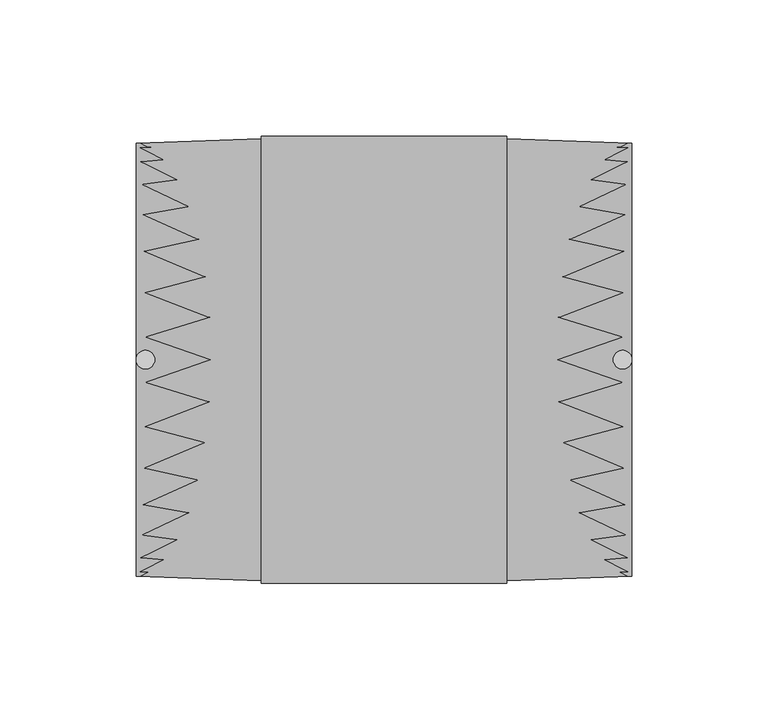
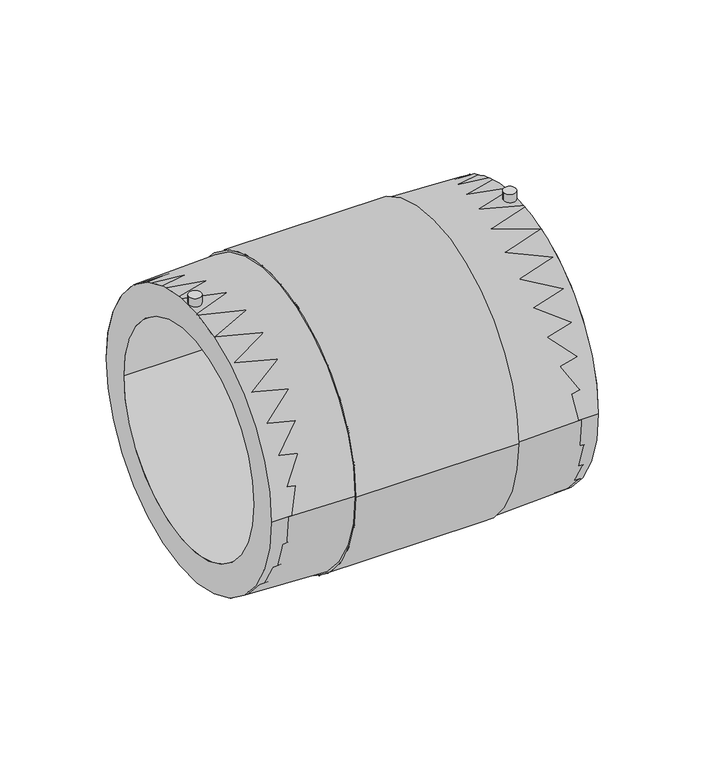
"""IFC4 building model written with IfcOpenShell, lengths in millimetres: pipe fitting geometry, EGB_VASEN_ PPR_Manguito electrosoldable WXRD100 : Manguito electrosoldable WXRD100."""

import ifcopenshell
import ifcopenshell.guid

model = None  # the IFC model being written
_history = None  # IfcOwnerHistory: only IFC2X3 demands one
_inside = {}  # id of a spatial element -> (the spatial element, [elements in it])
_under = {}  # id of a project, library or spatial element -> (it, [spatial elements below it])
_declared = {}  # id of a project -> (the project, [libraries it declares])
_typed = {}  # id of a type object -> (the type object, [elements of that type])
_made_of = {}  # id of a material, layer set ... -> (it, [elements and type objects made of it])


def new_model(schema):
    """Start an empty IFC model of exactly this schema.

    Asked for "IFC4X3", IfcOpenShell would pick the latest addendum, in which some entities
    have other attributes; the version numbers below select the first issue.
    IFC2X3 requires an IfcOwnerHistory on every rooted entity: one is made here for all.
    """
    global model, _history
    if schema == "IFC4X3":
        model = ifcopenshell.file(schema_version=(4, 3, 0, 0))
    else:
        model = ifcopenshell.file(schema=schema)
    _inside.clear()
    _under.clear()
    _declared.clear()
    _typed.clear()
    _made_of.clear()
    _history = None
    if model.schema == "IFC2X3":
        org = make("IfcOrganization", Name="unknown")
        user = make(
            "IfcPersonAndOrganization",
            ThePerson=make("IfcPerson", FamilyName="unknown"),
            TheOrganization=org,
        )
        app = make(
            "IfcApplication",
            ApplicationDeveloper=org,
            Version="unknown",
            ApplicationFullName="unknown",
            ApplicationIdentifier="unknown",
        )
        _history = make(
            "IfcOwnerHistory",
            OwningUser=user,
            OwningApplication=app,
            ChangeAction="ADDED",
            CreationDate=0,
        )
    return model


def make(cls, **values):
    """One entity of the class cls with the attributes given. An attribute that is None is left unset."""
    return model.create_entity(
        cls, **{name: value for name, value in values.items() if value is not None}
    )


def rooted(cls, **values):
    """An entity with a GlobalId (a new one), such as an element, a storey or a relation."""
    return make(cls, GlobalId=ifcopenshell.guid.new(), OwnerHistory=_history, **values)


def si_unit(unit_type, name, prefix=None):
    """IfcSIUnit, for example si_unit("LENGTHUNIT", "METRE", prefix="MILLI")."""
    return make("IfcSIUnit", UnitType=unit_type, Prefix=prefix, Name=name)


def assignment(units):
    """IfcUnitAssignment: the units of a project."""
    return None if units is None else make("IfcUnitAssignment", Units=units)


def point(xyz):
    """IfcCartesianPoint."""
    return None if xyz is None else make("IfcCartesianPoint", Coordinates=xyz)


def direction(xyz):
    """IfcDirection."""
    return None if xyz is None else make("IfcDirection", DirectionRatios=xyz)


def frame(location, z_axis=None, x_axis=None):
    """IfcAxis2Placement3D, a coordinate frame: its origin and axes. An axis left out is left unset."""
    return make(
        "IfcAxis2Placement3D",
        Location=point(location),
        Axis=direction(z_axis),
        RefDirection=direction(x_axis),
    )


def frame_2d(location, x_axis=None):
    """IfcAxis2Placement2D, a coordinate frame in the plane: its origin and x axis."""
    return make(
        "IfcAxis2Placement2D", Location=point(location), RefDirection=direction(x_axis)
    )


def origin():
    """The frame at (0, 0, 0) with its axes left unset."""
    return frame((0.0, 0.0, 0.0))


def origin_2d():
    """The frame at (0, 0) in the plane with its x axis left unset."""
    return frame_2d((0.0, 0.0))


def place(relative_to, where):
    """IfcLocalPlacement: puts the frame where relative to a parent placement (None: the world)."""
    return make(
        "IfcLocalPlacement", PlacementRelTo=relative_to, RelativePlacement=where
    )


def context(
    kind, dimensions, precision=None, world=None, true_north=None, identifier=None
):
    """IfcGeometricRepresentationContext, for example the 3D "Model" context."""
    return make(
        "IfcGeometricRepresentationContext",
        ContextIdentifier=identifier,
        ContextType=kind,
        CoordinateSpaceDimension=dimensions,
        Precision=precision,
        WorldCoordinateSystem=world,
        TrueNorth=true_north,
    )


def project(units=None, contexts=None):
    """IfcProject with its units and contexts."""
    return rooted(
        "IfcProject",
        Name="project",
        RepresentationContexts=contexts,
        UnitsInContext=assignment(units),
    )


def spatial(cls, under=None, at=None, **own):
    """A site, building, storey or space (cls), placed at a placement, below another one or the project."""
    s = rooted(cls, ObjectPlacement=at, **own)
    if under is not None:
        _under.setdefault(under.id(), (under, []))[1].append(s)
    return s


def polyline(points):
    """IfcPolyline through the points."""
    return make("IfcPolyline", Points=[point(p) for p in points])


def circle_curve(where, radius):
    """IfcCircle in the frame where."""
    return make("IfcCircle", Position=where, Radius=radius)


def trimmed(basis, trim1, trim2, sense, master):
    """IfcTrimmedCurve: the piece of a basis curve between two trims."""
    return make(
        "IfcTrimmedCurve",
        BasisCurve=basis,
        Trim1=trim1,
        Trim2=trim2,
        SenseAgreement=sense,
        MasterRepresentation=master,
    )


def segment(curve, same_sense, transition):
    """IfcCompositeCurveSegment."""
    return make(
        "IfcCompositeCurveSegment",
        Transition=transition,
        SameSense=same_sense,
        ParentCurve=curve,
    )


def composite_curve(segments, self_intersect=None):
    """IfcCompositeCurve: segments joined end to end."""
    return make("IfcCompositeCurve", Segments=segments, SelfIntersect=self_intersect)


def outline(outer, holes=None, kind="AREA"):
    """IfcArbitraryClosedProfileDef: a profile drawn as a closed curve; with holes, ...WithVoids."""
    if holes is None:
        return make("IfcArbitraryClosedProfileDef", ProfileType=kind, OuterCurve=outer)
    return make(
        "IfcArbitraryProfileDefWithVoids",
        ProfileType=kind,
        OuterCurve=outer,
        InnerCurves=holes,
    )


def extrude(swept, where, along, depth):
    """IfcExtrudedAreaSolid: the profile swept, set in the frame where, extruded along a direction by depth."""
    return make(
        "IfcExtrudedAreaSolid",
        SweptArea=swept,
        Position=where,
        ExtrudedDirection=direction(along),
        Depth=depth,
    )


def shape(context_of_items, identifier, shape_type, items):
    """IfcShapeRepresentation: the items that make up one representation, for example the "Body"."""
    return make(
        "IfcShapeRepresentation",
        ContextOfItems=context_of_items,
        RepresentationIdentifier=identifier,
        RepresentationType=shape_type,
        Items=items,
    )


def source(mapping_origin, context_of_items, identifier, shape_type, items):
    """IfcRepresentationMap: a shape defined once, which mapped items show again and again."""
    return make(
        "IfcRepresentationMap",
        MappingOrigin=mapping_origin,
        MappedRepresentation=shape(context_of_items, identifier, shape_type, items),
    )


def transform(
    local_origin,
    x_axis=None,
    y_axis=None,
    z_axis=None,
    scale=None,
    scale2=None,
    scale3=None,
    uniform=True,
):
    """IfcCartesianTransformationOperator3D, or its non-uniform kind. x_axis, y_axis, z_axis: its Axis1, 2, 3."""
    if uniform:
        return make(
            "IfcCartesianTransformationOperator3D",
            Axis1=direction(x_axis),
            Axis2=direction(y_axis),
            LocalOrigin=point(local_origin),
            Scale=scale,
            Axis3=direction(z_axis),
        )
    return make(
        "IfcCartesianTransformationOperator3DnonUniform",
        Axis1=direction(x_axis),
        Axis2=direction(y_axis),
        LocalOrigin=point(local_origin),
        Scale=scale,
        Axis3=direction(z_axis),
        Scale2=scale2,
        Scale3=scale3,
    )


def mapped(mapping_source, mapping_target):
    """IfcMappedItem: shows the shape of a source again, moved by a transform."""
    return make(
        "IfcMappedItem", MappingSource=mapping_source, MappingTarget=mapping_target
    )


def made_of(thing, what):
    """Note that an element or type object is made of a material, layer set ...; save() writes the relation."""
    if what is not None:
        _made_of.setdefault(what.id(), (what, []))[1].append(thing)
    return thing


def element(
    cls,
    number,
    at=None,
    inside=None,
    cuts=None,
    type_object=None,
    material=None,
    context=None,
    identifier="Body",
    shape_type=None,
    held_by="IfcProductDefinitionShape",
    body=None,
    shapes=None,
    **own,
):
    """One element of the class cls, such as IfcWall. Its Tag is "e" and its number.

    at: its placement. inside: the storey or other place that contains it. cuts: it is an
    opening in that element (IfcRelVoidsElement). A single representation is given by context,
    identifier, shape_type and body (its items); several are given by shapes. held_by: the class
    of the entity that holds the representations. save() writes the other relations.
    """
    e = rooted(cls, Tag="e%d" % number, ObjectPlacement=at, **own)
    if body is not None:
        shapes = [shape(context, identifier, shape_type, body)]
    if shapes is not None:
        e.Representation = make(held_by, Representations=shapes)
    if inside is not None:
        _inside.setdefault(inside.id(), (inside, []))[1].append(e)
    if cuts is not None:
        rooted(
            "IfcRelVoidsElement", RelatingBuildingElement=cuts, RelatedOpeningElement=e
        )
    if type_object is not None:
        _typed.setdefault(type_object.id(), (type_object, []))[1].append(e)
    return made_of(e, material)


def aggregate(whole, parts):
    """IfcRelAggregates: a whole, such as a stair, and the parts it consists of."""
    return rooted("IfcRelAggregates", RelatingObject=whole, RelatedObjects=parts)


def save(model, path):
    """Write the relations noted so far, then the file.

    IfcRelAggregates (storeys below a building ...), IfcRelContainedInSpatialStructure (elements
    in a storey), IfcRelDefinesByType, IfcRelAssociatesMaterial and IfcRelDeclares: one each for
    every whole, place, type object, material and project.
    """
    for whole, parts in _under.values():
        aggregate(whole, parts)
    for where, things in _inside.values():
        rooted(
            "IfcRelContainedInSpatialStructure",
            RelatedElements=things,
            RelatingStructure=where,
        )
    for kind, things in _typed.values():
        rooted("IfcRelDefinesByType", RelatedObjects=things, RelatingType=kind)
    for what, things in _made_of.values():
        rooted("IfcRelAssociatesMaterial", RelatedObjects=things, RelatingMaterial=what)
    for by, libraries in _declared.values():
        rooted("IfcRelDeclares", RelatingContext=by, RelatedDefinitions=libraries)
    model.write(path)


def plane_surface(at):
    """IfcPlane: the flat surface through the origin of the frame at, square to its z axis."""
    return make("IfcPlane", Position=at)


def cylinder_surface(at, radius):
    """IfcCylindricalSurface: all points at the distance radius from the z axis of the frame at."""
    return make("IfcCylindricalSurface", Position=at, Radius=radius)


def revolved_surface(curve, axis_point, axis_direction):
    """IfcSurfaceOfRevolution: the curve turned about the line through axis_point along axis_direction."""
    return make(
        "IfcSurfaceOfRevolution",
        SweptCurve=make("IfcArbitraryOpenProfileDef", ProfileType="CURVE", Curve=curve),
        AxisPosition=make("IfcAxis1Placement", Location=point(axis_point), Axis=direction(axis_direction)),
    )


def advanced_brep(points, edges, surfaces, faces):
    """IfcAdvancedBrep: a solid bounded by faces that lie on surfaces and meet in shared edges.

    An edge is (start, end): straight between two places in points (the first is 0);
    or (start, end, curve); or (start, end, curve, False) where it runs against its curve.
    A face is (place in surfaces, loops), or (place, loops, False) where it looks against
    its surface's normal. A loop lists edges by number (the first is 1), with a minus sign
    where the edge is run from its end to its start. The first loop is the outer one.
    """
    corners = [point(p) for p in points]
    vertices = [make("IfcVertexPoint", VertexGeometry=c) for c in corners]
    made = []
    for start, end, *more in edges:
        made.append(
            make(
                "IfcEdgeCurve",
                EdgeStart=vertices[start],
                EdgeEnd=vertices[end],
                EdgeGeometry=more[0] if more else make("IfcPolyline", Points=[corners[start], corners[end]]),
                SameSense=more[1] if len(more) > 1 else True,
            )
        )
    hull = []
    for where, loops, *sense in faces:
        bounds = []
        for j, loop in enumerate(loops):
            ring = [make("IfcOrientedEdge", EdgeElement=made[abs(k) - 1], Orientation=k > 0) for k in loop]
            bounds.append(
                make(
                    "IfcFaceOuterBound" if j == 0 else "IfcFaceBound",
                    Bound=make("IfcEdgeLoop", EdgeList=ring),
                    Orientation=True,
                )
            )
        hull.append(make("IfcAdvancedFace", Bounds=bounds, FaceSurface=surfaces[where], SameSense=sense[0] if sense else True))
    return make("IfcAdvancedBrep", Outer=make("IfcClosedShell", CfsFaces=hull))


def pipe_fitting_73914c92(model_context):
    return source(origin(), model_context, "Body", "SolidModel", [
        extrude(outline(composite_curve([segment(trimmed(circle_curve(origin_2d(), 79.5), [point((-79.5, 0.0))], [point((79.5, 0.0))], False, "CARTESIAN"), True, "CONTINUOUS"), segment(trimmed(circle_curve(origin_2d(), 79.5), [point((79.5, 0.0))], [point((-79.5, 0.0))], False, "CARTESIAN"), True, "CONTINUOUS")], self_intersect=False), holes=[composite_curve([segment(trimmed(circle_curve(origin_2d(), 62.5), [point((-62.5, 0.0))], [point((62.5, 0.0))], True, "CARTESIAN"), True, "CONTINUOUS"), segment(trimmed(circle_curve(origin_2d(), 62.5), [point((62.5, 0.0))], [point((-62.5, 0.0))], True, "CARTESIAN"), True, "CONTINUOUS")], self_intersect=False)]), frame((-91.0, 0.0, 0.0), z_axis=(1.0, 0.0, 0.0), x_axis=(0.0, 1.0, 0.0)), (0.0, 0.0, 1.0), 182.0),
        extrude(outline(composite_curve([segment(trimmed(circle_curve(frame_2d((-87.5878802, 0.0)), 3.4121198), [point((-91.0, 0.0))], [point((-84.1757605, 0.0))], False, "CARTESIAN"), True, "CONTINUOUS"), segment(trimmed(circle_curve(frame_2d((-87.5878802, 0.0)), 3.4121198), [point((-84.1757605, 0.0))], [point((-91.0, 0.0))], False, "CARTESIAN"), True, "CONTINUOUS")], self_intersect=False)), frame((0.0, 0.0, 64.5), z_axis=(0.0, 0.0, 1.0), x_axis=(1.0, 0.0, 0.0)), (0.0, 0.0, 1.0), 20.0),
        extrude(outline(composite_curve([segment(trimmed(circle_curve(frame_2d((87.5878802, 0.0)), 3.4121198), [point((84.1757605, 0.0))], [point((91.0, 0.0))], False, "CARTESIAN"), True, "CONTINUOUS"), segment(trimmed(circle_curve(frame_2d((87.5878802, 0.0)), 3.4121198), [point((91.0, 0.0))], [point((84.1757605, 0.0))], False, "CARTESIAN"), True, "CONTINUOUS")], self_intersect=False)), frame((0.0, 0.0, 64.5), z_axis=(0.0, 0.0, 1.0), x_axis=(1.0, 0.0, 0.0)), (0.0, 0.0, 1.0), 20.0),
        advanced_brep(
        [(45.1, -81.082849, 0.0), (45.1, 81.082849, 0.0), (91.0, 79.5, 0.0), (91.0, -79.5, 0.0), (45.1, -82.082849, 0.0), (45.1, 82.082849, 0.0), (-45.1, -82.082849, 0.0), (-45.1, 82.082849, 0.0), (-45.1, -81.082849, 0.0), (-45.1, 81.082849, 0.0), (-91.0, -79.5, 0.0), (-91.0, 79.5, 0.0)],
        [
            (0, 1, circle_curve(frame((45.1, 0.0, 0.0), z_axis=(1.0, 0.0, 0.0), x_axis=(0.0, 1.0, 0.0)), 81.082849)),
            (1, 2),
            (2, 3, circle_curve(frame((91.0, 0.0, 0.0), z_axis=(-1.0, 0.0, 0.0), x_axis=(0.0, 1.0, 0.0)), 79.5)),
            (3, 0),
            (1, 0, circle_curve(frame((45.1, 0.0, 0.0), z_axis=(1.0, 0.0, 0.0), x_axis=(0.0, 1.0, 0.0)), 81.082849)),
            (3, 2, circle_curve(frame((91.0, 0.0, 0.0), z_axis=(-1.0, 0.0, 0.0), x_axis=(0.0, 1.0, 0.0)), 79.5)),
            (4, 5, circle_curve(frame((45.1, 0.0, 0.0), z_axis=(1.0, 0.0, 0.0), x_axis=(0.0, 1.0, 0.0)), 82.082849)),
            (5, 1),
            (0, 4),
            (5, 4, circle_curve(frame((45.1, 0.0, 0.0), z_axis=(1.0, 0.0, 0.0), x_axis=(0.0, 1.0, 0.0)), 82.082849)),
            (6, 7, circle_curve(frame((-45.1, 0.0, 0.0), z_axis=(1.0, 0.0, 0.0), x_axis=(0.0, 1.0, 0.0)), 82.082849)),
            (7, 5),
            (4, 6),
            (7, 6, circle_curve(frame((-45.1, 0.0, 0.0), z_axis=(1.0, 0.0, 0.0), x_axis=(0.0, 1.0, 0.0)), 82.082849)),
            (8, 9, circle_curve(frame((-45.1, 0.0, 0.0), z_axis=(1.0, 0.0, 0.0), x_axis=(0.0, 1.0, 0.0)), 81.082849)),
            (9, 7),
            (6, 8),
            (9, 8, circle_curve(frame((-45.1, 0.0, 0.0), z_axis=(1.0, 0.0, 0.0), x_axis=(0.0, 1.0, 0.0)), 81.082849)),
            (10, 11, circle_curve(frame((-91.0, 0.0, 0.0), z_axis=(1.0, 0.0, 0.0), x_axis=(0.0, 1.0, 0.0)), 79.5)),
            (11, 9),
            (8, 10),
            (11, 10, circle_curve(frame((-91.0, 0.0, 0.0), z_axis=(1.0, 0.0, 0.0), x_axis=(0.0, 1.0, 0.0)), 79.5)),
            (2, 11),
            (10, 3),
        ],
        [
            revolved_surface(polyline([(91.0, 79.5, 0.0), (45.1, 81.082849, 0.0)]), (-84.7721997, 0.0, 0.0), (-1.0, 0.0, 0.0)),
            plane_surface(frame((45.1, 0.0, 0.0), z_axis=(1.0, 0.0, 0.0), x_axis=(0.0, 1.0, 0.0))),
            cylinder_surface(frame((-84.7721997, 0.0, 0.0), z_axis=(-1.0, 0.0, 0.0), x_axis=(0.0, 1.0, 0.0)), 82.082849),
            plane_surface(frame((-45.1, 0.0, 0.0), z_axis=(-1.0, 0.0, 0.0), x_axis=(0.0, 1.0, 0.0))),
            revolved_surface(polyline([(-45.1, 81.082849, 0.0), (-91.0, 79.5, 0.0)]), (-84.7721997, 0.0, 0.0), (-1.0, 0.0, 0.0)),
            revolved_surface(polyline([(-91.0, 79.5, 0.0), (90.99999999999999, 79.5, 0.0)]), (-84.7721997, 0.0, 0.0), (-1.0, 0.0, 0.0)),
        ],
        [
            (0, [[1, 2, 3, 4]]),
            (0, [[5, -4, 6, -2]]),
            (1, [[7, 8, -1, 9]]),
            (1, [[10, -9, -5, -8]]),
            (2, [[11, 12, -7, 13]]),
            (2, [[14, -13, -10, -12]]),
            (3, [[15, 16, -11, 17]]),
            (3, [[18, -17, -14, -16]]),
            (4, [[19, 20, -15, 21]]),
            (4, [[22, -21, -18, -20]]),
            (5, [[-3, 23, -19, 24]]),
            (5, [[-6, -24, -22, -23]]),
        ],
    ),
    ])


if __name__ == "__main__":
    model = new_model("IFC4")
    model_context = context("Model", 3, world=origin())
    ifc_project = project(units=[si_unit("LENGTHUNIT", "METRE", prefix="MILLI")], contexts=[model_context])
    site = spatial("IfcSite", under=ifc_project)
    building = spatial("IfcBuilding", under=site)
    placement = place(None, origin())
    pipe_fitting_shape = pipe_fitting_73914c92(model_context)
    element("IfcPipeFitting", 1, ObjectType="EGB_VASEN_ PPR_Manguito electrosoldable WXRD100 : Manguito electrosoldable WXRD100", at=placement, inside=building, context=model_context, shape_type="MappedRepresentation", body=[
        mapped(pipe_fitting_shape, transform((0.0, 0.0, 0.0), x_axis=(1.0, 0.0, 0.0), y_axis=(0.0, 1.0, 0.0), z_axis=(0.0, 0.0, 1.0))),
    ])
    save(model, "model.ifc")
